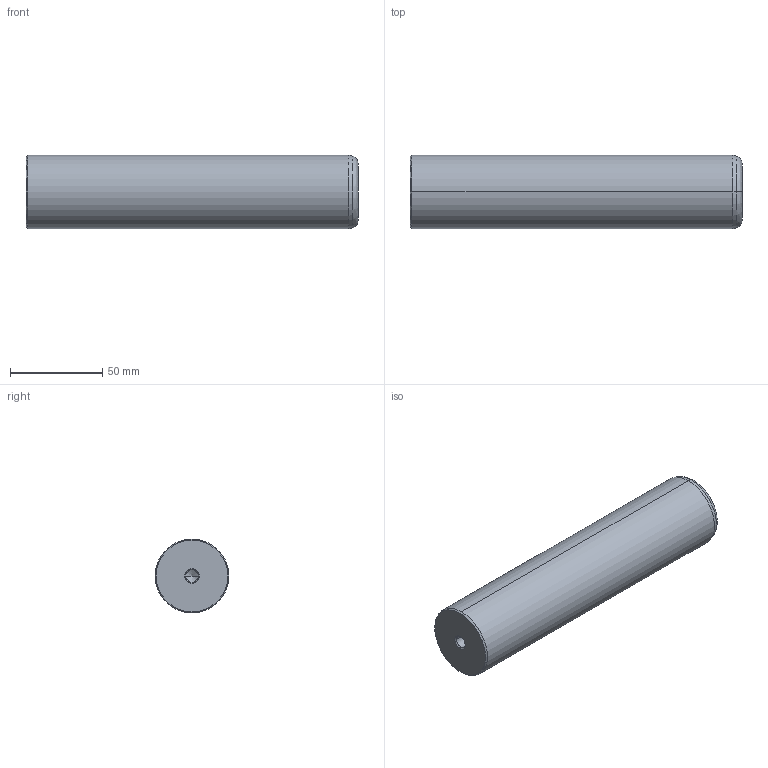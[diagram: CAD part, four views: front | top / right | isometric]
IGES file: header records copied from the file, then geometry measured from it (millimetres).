
Start section: START RECORD GO HERE.
Global section: file name: 720-40x180.igs; native system: DASSAULT SYSTEMES CATIA V5 R20 - www.3ds.com; preprocessor: CATIA Version 5 Release 20 ; author: Utente; organization: NB04-ASUS; date: 20201230.230100; units: millimetre
Bounding box: 180 x 40 x 40 mm (x, y, z)
Surface area: 25803.6 mm2 (no closed solid volume)
Topology: 0 solids, 0 shells, 22 faces, 108 edges, 104 vertices
Faces by surface type: revolution 20, plane 2
